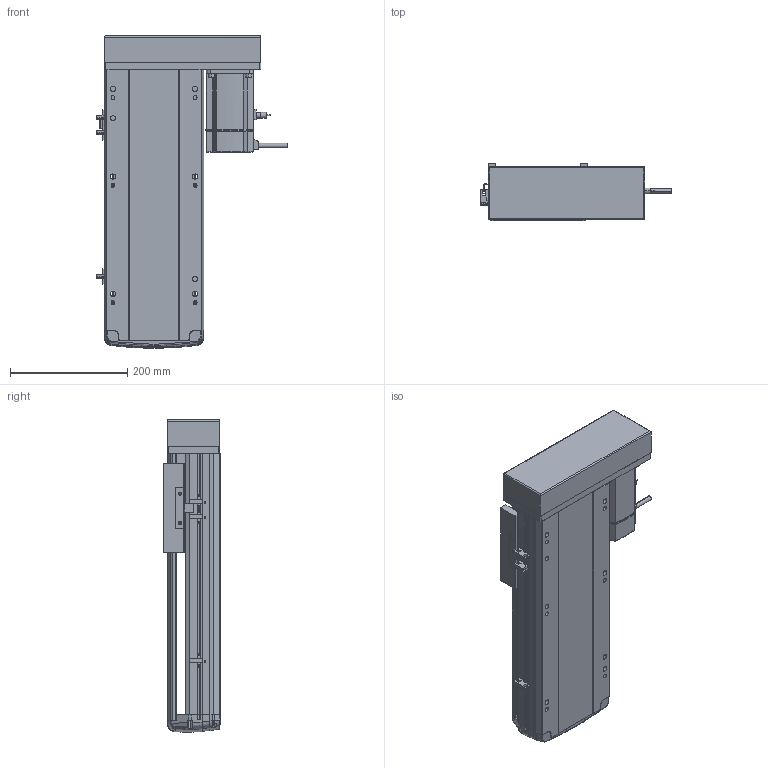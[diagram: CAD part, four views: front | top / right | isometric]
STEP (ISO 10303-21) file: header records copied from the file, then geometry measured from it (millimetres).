
FILE_DESCRIPTION (( 'STEP AP214' ), '1' );
FILE_NAME ('RTH17-XX-250-L-M75-C4.STEP', '2025-10-24T10:31:01', ( '' ), ( '' ), 'SwSTEP 2.0', 'SolidWorks 2018', '' );
FILE_SCHEMA (( 'AUTOMOTIVE_DESIGN' ));
Length unit declared in the file: millimetre
Products named in the file (10): N_RTH17-E-004丝杆螺母连接座^RTH17-XX-XX-L-M75-C4（方程式）; N_RTH17-M-011底座^RTH17-XX-XX-L-M75-C4（方程式）; N_RTH17-GY-001P^RTH17-XX-XX-L-M75-C4（方程式）; N_OMRON EE-SX672 換覜ん^RTH17-XX-XX-L-M75-C4ㄗ源最宒ㄘ; N_M75^RTH17-XX-XX-L-M75-C4（方程式）; N_RTH-L-012 感应片(外置)^RTH17-XX-XX-L-M75-C4（方程式）; N_RTH17-M-007上盖^RTH17-XX-XX-L-M75-C4（方程式）; N_RTH17-L-018盖子^RTH17-XX-XX-L-M75-C4（方程式）; RTH17-XX-250-L-M75-C4; N_RTH17-L-008-P75电机安装板左转折^RTH17-XX-XX-L-M75-C4（方程式）
Assembly tree (11 placements, depth 2):
  RTH17-XX-250-L-M75-C4
    N_RTH17-M-011底座^RTH17-XX-XX-L-M75-C4（方程式）
    N_RTH17-M-007上盖^RTH17-XX-XX-L-M75-C4（方程式）
    N_M75^RTH17-XX-XX-L-M75-C4（方程式）
    N_OMRON EE-SX672 換覜ん^RTH17-XX-XX-L-M75-C4ㄗ源最宒ㄘ  x3
    N_RTH-L-012 感应片(外置)^RTH17-XX-XX-L-M75-C4（方程式）
    N_RTH17-L-008-P75电机安装板左转折^RTH17-XX-XX-L-M75-C4（方程式）
    N_RTH17-L-018盖子^RTH17-XX-XX-L-M75-C4（方程式）
    N_RTH17-E-004丝杆螺母连接座^RTH17-XX-XX-L-M75-C4（方程式）
    N_RTH17-GY-001P^RTH17-XX-XX-L-M75-C4（方程式）
Bounding box: 326.7 x 97 x 533.07 mm (x, y, z)
Volume: 6065327.9 mm3; surface area: 762112.1 mm2
Topology: 13 solids, 15 shells, 1709 faces, 4673 edges, 3022 vertices
Faces by surface type: plane 827, cylinder 468, bspline 377, cone 28, torus 9
Entity records: 49097 total; most frequent: CARTESIAN_POINT 19733, ORIENTED_EDGE 6370, DIRECTION 5293, EDGE_CURVE 3189, VERTEX_POINT 2058, AXIS2_PLACEMENT_3D 1765, LINE 1763, VECTOR 1763
